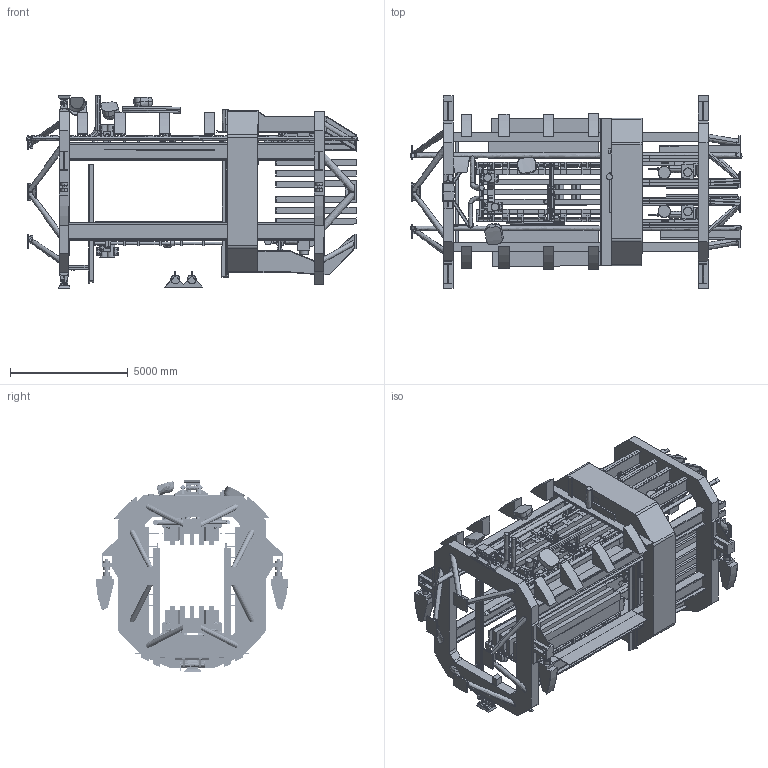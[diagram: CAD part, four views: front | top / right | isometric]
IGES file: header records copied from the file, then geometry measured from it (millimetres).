
Global section: file name: Z:\prj2.1\wind_tunnels\NTF\outgoing\geometry\Rumsey\NTF_Additional_Obstructions_2025_05_27\NTF_Additional_Obstructions_2025_05_27.igs; native system: NX V12.0; preprocessor: SIEMENS PLM Software NX 12.0; date: 20250527.134736; units: inch
Bounding box: 14075.9 x 8176.22 x 8180.12 mm (x, y, z)
Surface area: 893906370.4 mm2 (no closed solid volume)
Topology: 0 solids, 0 shells, 4374 faces, 34495 edges, 34475 vertices
Faces by surface type: bspline 4373, offset 1
